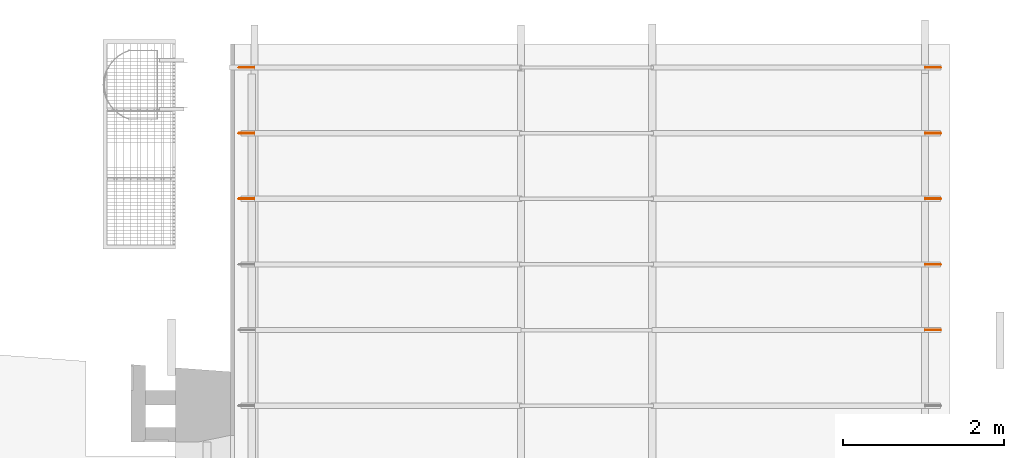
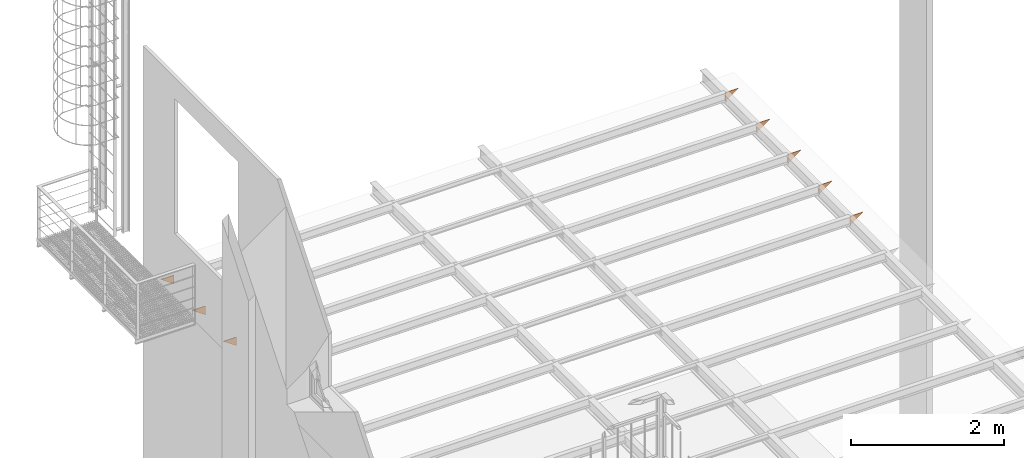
# One storey, part 33 of 33: 8 proxies.
"""IFC2X3 building model written with IfcOpenShell, lengths in metres."""

from ifc_helpers import new_model, entity, si_unit, converted_unit, derived_unit, direction, frame, origin, place, context, subcontext, project, spatial, polyline, outline, extrude, source, transform, mapped, material, type_object, type_shapes, element, save


model = new_model("IFC2X3")

# Units and contexts
model_context = context("Model", 3, precision=1e-05, world=origin(), true_north=direction((6.12303176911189e-17, 1.0)))
body_context = subcontext(model_context, "Body", "Model", "MODEL_VIEW")
ifc_project = project(units=[si_unit("LENGTHUNIT", "METRE"), si_unit("AREAUNIT", "SQUARE_METRE"), si_unit("VOLUMEUNIT", "CUBIC_METRE"), converted_unit("PLANEANGLEUNIT", "DEGREE", entity("IfcRatioMeasure", 0.0174532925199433), si_unit("PLANEANGLEUNIT", "RADIAN"), dimensions=[0, 0, 0, 0, 0, 0, 0]), si_unit("MASSUNIT", "GRAM", prefix="KILO"), derived_unit("MASSDENSITYUNIT", [(si_unit("MASSUNIT", "GRAM", prefix="KILO"), 1), (si_unit("LENGTHUNIT", "METRE"), -3)]), derived_unit("MOMENTOFINERTIAUNIT", [(si_unit("LENGTHUNIT", "METRE"), 4)]), si_unit("TIMEUNIT", "SECOND"), si_unit("FREQUENCYUNIT", "HERTZ"), si_unit("THERMODYNAMICTEMPERATUREUNIT", "DEGREE_CELSIUS"), derived_unit("THERMALTRANSMITTANCEUNIT", [(si_unit("MASSUNIT", "GRAM", prefix="KILO"), 1), (si_unit("THERMODYNAMICTEMPERATUREUNIT", "KELVIN"), -1), (si_unit("TIMEUNIT", "SECOND"), -3)]), derived_unit("VOLUMETRICFLOWRATEUNIT", [(si_unit("LENGTHUNIT", "METRE"), 3), (si_unit("TIMEUNIT", "SECOND"), -1)]), si_unit("ELECTRICCURRENTUNIT", "AMPERE"), si_unit("ELECTRICVOLTAGEUNIT", "VOLT"), si_unit("POWERUNIT", "WATT"), si_unit("FORCEUNIT", "NEWTON", prefix="KILO"), si_unit("ILLUMINANCEUNIT", "LUX"), si_unit("LUMINOUSFLUXUNIT", "LUMEN"), si_unit("LUMINOUSINTENSITYUNIT", "CANDELA"), derived_unit("USERDEFINED", [(si_unit("MASSUNIT", "GRAM", prefix="KILO"), -1), (si_unit("LENGTHUNIT", "METRE"), -2), (si_unit("TIMEUNIT", "SECOND"), 3), (si_unit("LUMINOUSFLUXUNIT", "LUMEN"), 1)]), derived_unit("LINEARVELOCITYUNIT", [(si_unit("LENGTHUNIT", "METRE"), 1), (si_unit("TIMEUNIT", "SECOND"), -1)]), si_unit("PRESSUREUNIT", "PASCAL"), derived_unit("USERDEFINED", [(si_unit("LENGTHUNIT", "METRE"), -2), (si_unit("MASSUNIT", "GRAM", prefix="KILO"), 1), (si_unit("TIMEUNIT", "SECOND"), -2)]), derived_unit("LINEARFORCEUNIT", [(si_unit("MASSUNIT", "GRAM", prefix="KILO"), 1), (si_unit("LENGTHUNIT", "METRE"), 1), (si_unit("TIMEUNIT", "SECOND"), -2), (si_unit("LENGTHUNIT", "METRE"), -1)]), derived_unit("PLANARFORCEUNIT", [(si_unit("MASSUNIT", "GRAM", prefix="KILO"), 1), (si_unit("LENGTHUNIT", "METRE"), 1), (si_unit("TIMEUNIT", "SECOND"), -2), (si_unit("LENGTHUNIT", "METRE"), -2)])], contexts=[model_context])

# Site, building, storey
site_placement = place(None, origin())
site = spatial("IfcSite", under=ifc_project, at=site_placement, Name="Superficie", CompositionType="ELEMENT")
building_placement = place(site_placement, origin())
building = spatial("IfcBuilding", under=site, at=building_placement, Name="Telegestiones", CompositionType="ELEMENT")
storey_placement = place(building_placement, frame((0.0, 0.0, 4.94)))
storey = spatial("IfcBuildingStorey", under=building, at=storey_placement, Name="Nivel 1_NPT", CompositionType="ELEMENT", Elevation=4.94)

# Proxies
ifc_material = material(Name="Metal-Acero")
building_element_proxy_type = type_object("IfcBuildingElementProxyType", Name="EST-PERF-Ace:EST-PERF-Ace", PredefinedType="NOTDEFINED", material=ifc_material)
shared_shape = source(origin(), body_context, "Body", "SweptSolid", [
    extrude(outline(polyline([(-0.108138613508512, -0.0382308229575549), (0.13599249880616, -0.0382308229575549), (-0.0278538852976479, 0.0764616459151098), (-0.108138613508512, -0.0382308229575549)])), frame((-0.005, 0.0666666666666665, -0.0877497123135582), z_axis=(1.0, 0.0, 0.0), x_axis=(0.0, 0.819231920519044, 0.573462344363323)), (0.0, 0.0, 1.0), 0.00999999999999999),
])
type_shapes(building_element_proxy_type, [shared_shape])
for number, where, z_axis, x_axis, name in (
    (1, (6.33481262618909, 11.8226072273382, 4.56), (0.0, 0.0, 1.0), (0.0, 1.0, 0.0), "EST-PERF-Ace:EST-PERF-Ace"),
    (2, (6.33481262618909, 12.6381072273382, 4.56), (0.0, 0.0, 1.0), (0.0, 1.0, 0.0), "EST-PERF-Ace:EST-PERF-Ace"),
    (3, (6.3348126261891, 13.4536072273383, 4.56), (0.0, 0.0, 1.0), (0.0, 1.0, 0.0), "EST-PERF-Ace:EST-PERF-Ace"),
    (4, (14.6648126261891, 10.1916072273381, 4.56), (0.0, 0.0, 1.0), (0.0, -1.0, 0.0), "EST-PERF-Ace:EST-PERF-Ace"),
    (5, (14.6648126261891, 11.8226072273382, 4.56), (0.0, 0.0, 1.0), (0.0, -1.0, 0.0), "EST-PERF-Ace:EST-PERF-Ace"),
    (6, (14.6648126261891, 11.0071072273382, 4.56), (0.0, 0.0, 1.0), (0.0, -1.0, 0.0), "EST-PERF-Ace:EST-PERF-Ace"),
    (7, (14.6648126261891, 12.6381072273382, 4.56), (0.0, 0.0, 1.0), (0.0, -1.0, 0.0), "EST-PERF-Ace:EST-PERF-Ace"),
    (8, (14.6648126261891, 13.4536072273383, 4.56), (0.0, 0.0, 1.0), (0.0, -1.0, 0.0), "EST-PERF-Ace:EST-PERF-Ace"),
):
    element("IfcBuildingElementProxy", number, at=place(storey_placement, frame(where, z_axis=z_axis, x_axis=x_axis)), inside=storey, type_object=building_element_proxy_type, material=ifc_material, Name=name, ObjectType="EST-PERF-Ace:EST-PERF-Ace", context=body_context, shape_type="MappedRepresentation", body=[
        mapped(shared_shape, transform((0.0, 0.0, 0.0), scale=1.0)),
    ])

save(model, "model.ifc")
